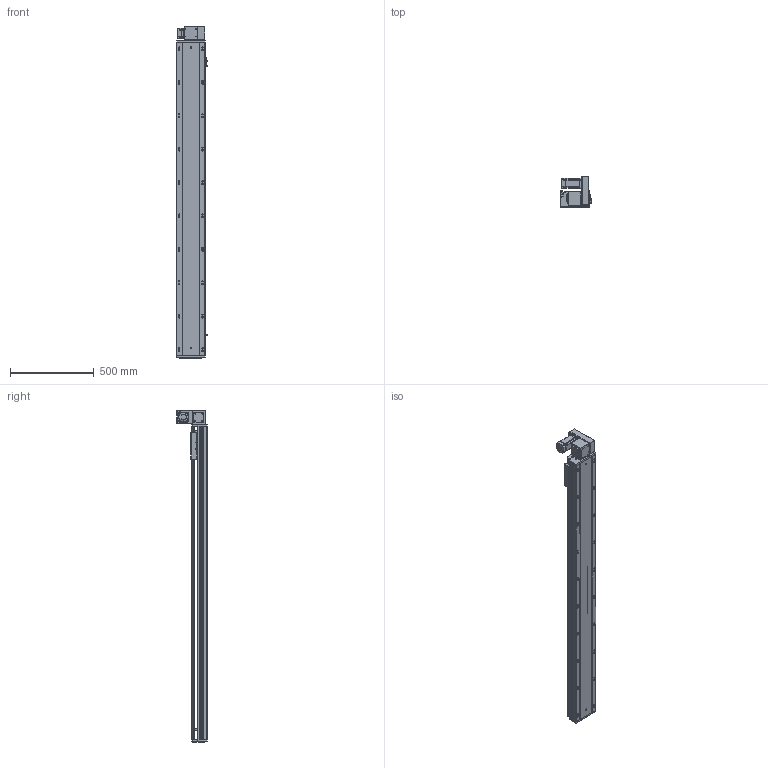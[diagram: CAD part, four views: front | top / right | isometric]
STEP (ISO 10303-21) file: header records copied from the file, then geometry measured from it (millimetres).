
FILE_DESCRIPTION (( 'STEP AP203' ), '1' );
FILE_NAME ('RY170-T-300-UR-P400W.SLDASM_1600.step', '2021-03-01T09:28:29', ( '盈信电脑' ), ( '东莞市道滘镇水果街19号' ), 'SwSTEP 2.0', 'SolidWorks 2012', '' );
FILE_SCHEMA (( 'CONFIG_CONTROL_DESIGN' ));
Products named in the file (18): RY170-T蹟翐M4; RY170-T-300-UR-P400W.SLDASM_1600; 15; 滅袉蝶18-10; RY120-T主同步轮轴承压盖; RY170-T肮祭謫裔啣; RY170-T肮祭湍揤踡輸2; RY170-T肮祭湍揤踡輸1; RY170同步轮电机安装板(400W); RY170肮祭謫萇儂欶; RY170肮祭謫ヶ裔啣; RY170翋肮祭謫釱; RY170綴裔啣; RY170外置感应片(200共用）; 覜茼ん672; RY170-T-300肮祭謫倰第菁釱-DR_1600; RY170-T-300肮祭謫倰第裔啣-DR_1600; RY170肮祭湍臏賑輸
Assembly tree (22 placements, depth 2):
  RY170-T-300-UR-P400W.SLDASM_1600
    RY170-T-300肮祭謫倰第菁釱-DR_1600
    RY170肮祭湍臏賑輸
    RY170-T-300肮祭謫倰第裔啣-DR_1600
    RY170綴裔啣
    覜茼ん672  x3
    RY170外置感应片(200共用）
    RY170肮祭謫ヶ裔啣
    RY170翋肮祭謫釱
    RY170同步轮电机安装板(400W)
    RY170肮祭謫萇儂欶
    RY170-T肮祭湍揤踡輸1  x2
    RY170-T肮祭湍揤踡輸2  x2
    RY120-T主同步轮轴承压盖
    RY170-T肮祭謫裔啣
    RY170-T蹟翐M4
    滅袉蝶18-10  x2
    15
Bounding box: 183.7 x 182 x 1988 mm (x, y, z)
Volume: 9419193.8 mm3; surface area: 3230202.3 mm2
Topology: 22 solids, 22 shells, 2908 faces, 8118 edges, 5187 vertices
Faces by surface type: cylinder 1332, plane 1266, cone 280, bspline 30
Entity records: 87688 total; most frequent: CARTESIAN_POINT 19983, ORIENTED_EDGE 13856, DIRECTION 13564, EDGE_CURVE 6928, AXIS2_PLACEMENT_3D 4798, VERTEX_POINT 4543, VECTOR 3968, LINE 3968
